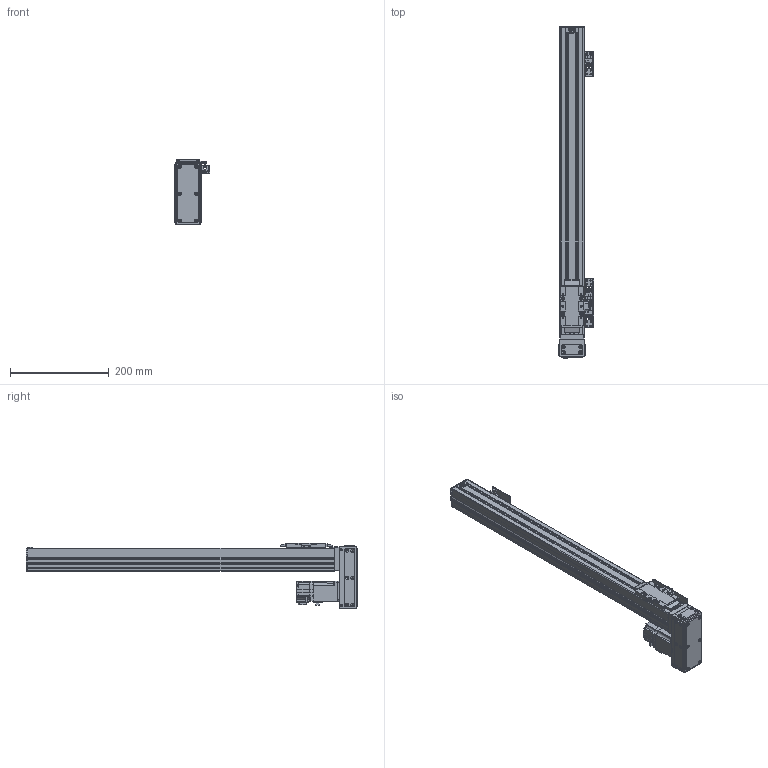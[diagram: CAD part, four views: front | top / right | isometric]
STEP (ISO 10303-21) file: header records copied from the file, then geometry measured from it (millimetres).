
FILE_DESCRIPTION(/* description */ (''),/* implementation_level */ '2;1');
FILE_NAME(/* name */ '\\192.168.0.160\disk1\HAN SHIN Master\B-설계부문\C-표준\B-2024년\BC02-표준도면\+로봇 개선표준도면\홈페이지 표준 도면\홈페이지 최종 작업 폴더\3D\HC\HC50-D10-N-0500-R10.stp',/* time_stamp */ '2025-05-26T17:56:58+09:00',/* author */ ('user'),/* organization */ (''),/* preprocessor_version */ 'ST-DEVELOPER v18.1',/* originating_system */ 'Autodesk Inventor 2022',/* authorisation */ '');
FILE_SCHEMA (('AUTOMOTIVE_DESIGN { 1 0 10303 214 3 1 1 }'));
Length unit declared in the file: millimetre
Products named in the file (27): HC50-D10-N-0200-R10 (높이 변경); HC50 BASE-R1; HC50 REAR BLOCK; HR45 FRONT BLOCK; SENSOR DOG BRK; HC50 SENSOR DOG; ISO 4762 - M3 x 16; HC45 UPCOVER; HC75,90 SHEET PLATE; HC45, HC65 STOPPER; HC50 REAR COVER-R3; SENSOR BRK(EE-SX674A); EE_SX674A; ESF1210 NUT; HC50SIDECOVER000; HC50 TABLE (서버리 테이프); HC75 TABLE COVER; HC45 TABLE SIDE COVER; MAGNET(∅10X3); hg-kr13_; HC50 DS; HC50 D MOTOR PLATE; HR45 MOTOR PLATE 100W; HC50 D BELT COVER; HR45 ACRYL COVER(정면); HR45 ACRYL COVER(상하면); HR45 ACRYL COVER(측면)
Assembly tree (38 placements, depth 3):
  HC50-D10-N-0200-R10 (높이 변경)
    HC50 BASE-R1
    HC50 REAR BLOCK
    HR45 FRONT BLOCK
    SENSOR BRK(EE-SX674A)  x3
    EE_SX674A  x3
    SENSOR DOG BRK
    HC50 SENSOR DOG
    ISO 4762 - M3 x 16  x2
    HC45 UPCOVER
    HC75,90 SHEET PLATE  x2
    HC45, HC65 STOPPER  x2
    MAGNET(∅10X3)  x3
    HC50 REAR COVER-R3
    ESF1210 NUT
    HC50SIDECOVER000  x2
    HC45 TABLE SIDE COVER  x2
    HC50 TABLE (서버리 테이프)
    HC75 TABLE COVER
    hg-kr13_
    HC50 DS
      HC50 D MOTOR PLATE
      HR45 MOTOR PLATE 100W
      HC50 D BELT COVER
      HR45 ACRYL COVER(정면)
      HR45 ACRYL COVER(상하면)
      HR45 ACRYL COVER(측면)  x2
Bounding box: 72 x 673 x 133 mm (x, y, z)
Volume: 747980.9 mm3; surface area: 504444.6 mm2
Topology: 39 solids, 39 shells, 1555 faces, 4161 edges, 2730 vertices
Faces by surface type: plane 850, cylinder 595, cone 97, bspline 9, torus 4
Full cylindrical faces by diameter (mm): 2.013 x4, 2.459 x91, 3 x2, 3.242 x28, 3.4 x34, 3.5 x34, 4 x8, 4.5 x16, 5 x16, 5.5 x2, 5.6 x2, 5.9 x2, 6 x17, 6.5 x2, 8 x1, 9 x2, 10 x4, 10.5 x3, 12 x1, 15 x3, 18 x1, 21 x2, 22 x2, 24 x1, 24.5 x1, 26 x1, 30 x2
Entity records: 40359 total; most frequent: CARTESIAN_POINT 7753, DIRECTION 6643, ORIENTED_EDGE 6378, EDGE_CURVE 3189, AXIS2_PLACEMENT_3D 2267, VERTEX_POINT 2116, LINE 2109, VECTOR 2109
